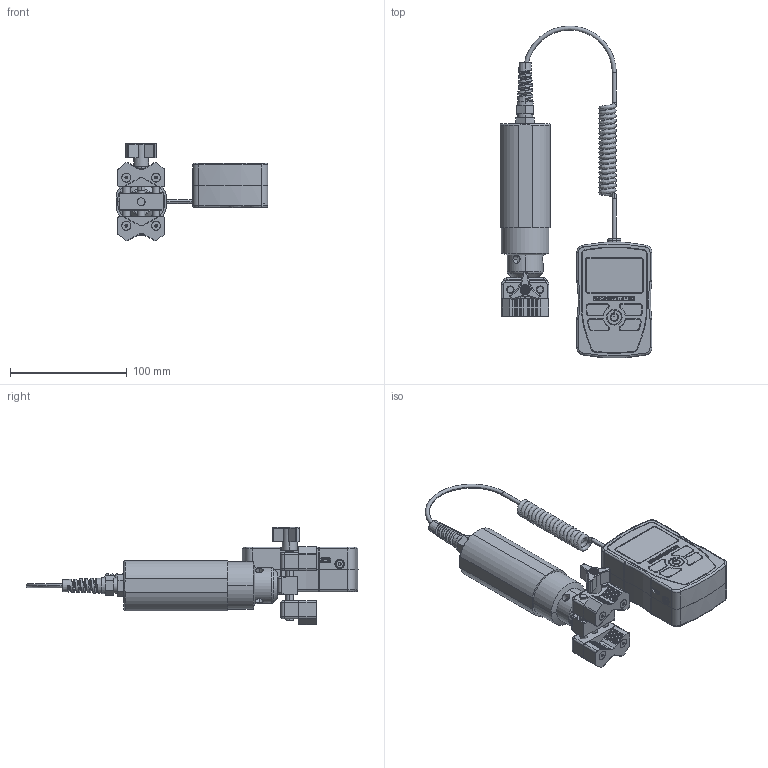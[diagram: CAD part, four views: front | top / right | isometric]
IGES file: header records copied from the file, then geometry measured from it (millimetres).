
Global section: file name: No Iges File Name specified; native system: Autodesk Inventor 2010; preprocessor: AutoDesk Inventor Iges Exporter R2010; author: mlampen; date: 20170601.104129; units: inch
Bounding box: 129.78 x 283.86 x 83.13 mm (x, y, z)
Volume: 471666.1 mm3; surface area: 83831.3 mm2
Topology: 9 solids, 9 shells, 1540 faces, 3830 edges, 2431 vertices
Faces by surface type: plane 719, revolution 323, cylinder 242, bspline 136, torus 57, cone 57, sphere 6
